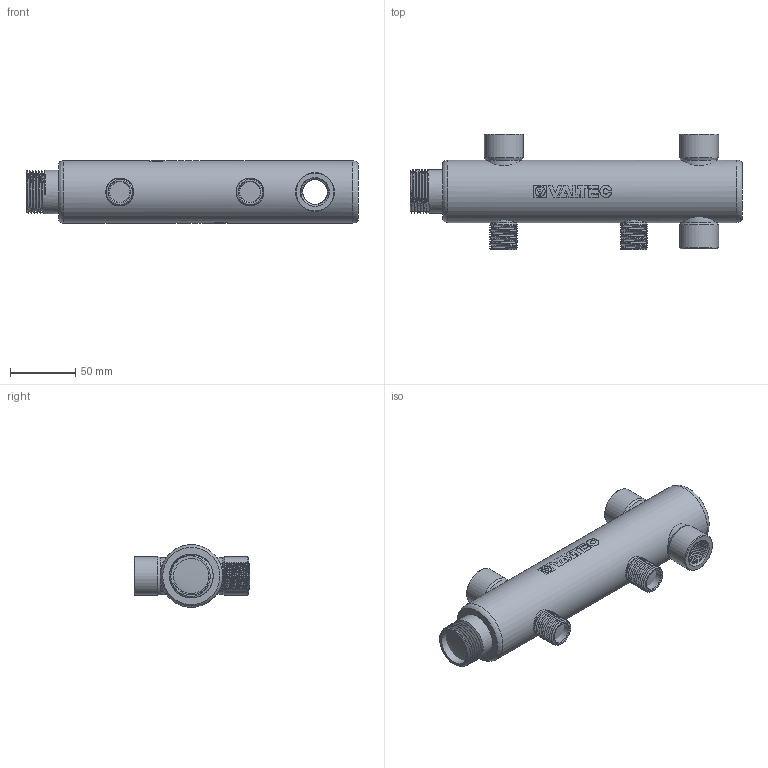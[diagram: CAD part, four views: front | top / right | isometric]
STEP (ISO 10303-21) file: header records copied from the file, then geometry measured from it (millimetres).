
FILE_DESCRIPTION(/* description */ (''),/* implementation_level */ '2;1');
FILE_NAME(/* name */ 'F:\Артём\00000\Работа удаленка\ГРВ\VTc.510.BS.060402.stp',/* time_stamp */ '2022-10-03T10:43:27+03:00',/* author */ ('almis'),/* organization */ (''),/* preprocessor_version */ 'ST-DEVELOPER v18',/* originating_system */ 'Autodesk Inventor 2020',/* authorisation */ '');
FILE_SCHEMA (('AUTOMOTIVE_DESIGN { 1 0 10303 214 3 1 1 }'));
Length unit declared in the file: millimetre
Products named in the file (1): ГРВ-44.100
Bounding box: 255 x 89 x 48.02 mm (x, y, z)
Volume: 159263.4 mm3; surface area: 99810.9 mm2
Topology: 1 solids, 1 shells, 443 faces, 1227 edges, 815 vertices
Faces by surface type: cylinder 183, plane 177, bspline 62, cone 19, torus 2
Full cylindrical faces by diameter (mm): 15.7 x2, 17.7 x24, 19 x30, 19.3 x2, 21.3 x20, 22.6 x33, 27.1 x1, 28 x5, 28.9 x6, 30 x3, 33.5 x6, 41 x1, 48 x1
Entity records: 30849 total; most frequent: CARTESIAN_POINT 20578, ORIENTED_EDGE 2454, DIRECTION 1594, EDGE_CURVE 1227, VERTEX_POINT 815, B_SPLINE_CURVE_WITH_KNOTS 550, AXIS2_PLACEMENT_3D 535, LINE 524
